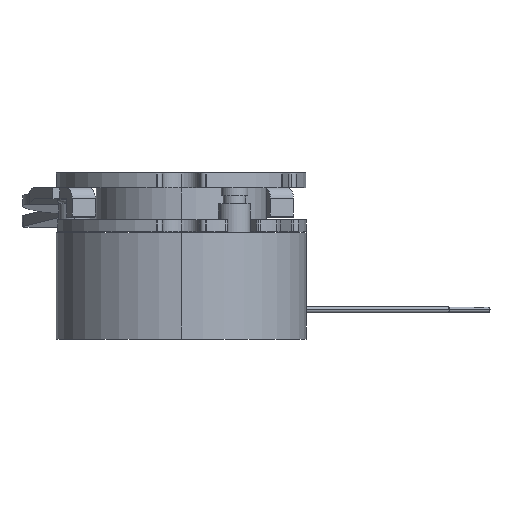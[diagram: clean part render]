
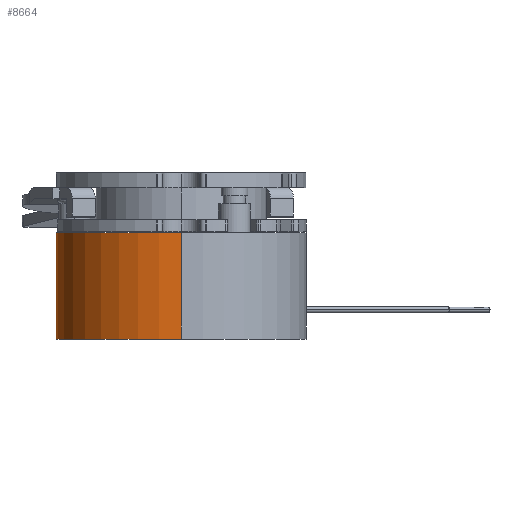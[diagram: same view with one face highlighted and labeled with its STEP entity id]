
A CAD part, left-side view. The second image highlights one B-rep face of the part: STEP entity #8664.
In plain terms, the highlighted cylindrical face has radius 23.5 mm (diameter 47 mm), a partial arc.
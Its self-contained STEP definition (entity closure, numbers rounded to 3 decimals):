
#2228 = LINE ( 'NONE', #4532, #2230 ) ;
#2230 = VECTOR ( 'NONE', #4533, 1000. ) ;
#3264 = EDGE_CURVE ( 'NONE', #13208, #8271, #7143, .T. ) ;
#3279 = EDGE_CURVE ( 'NONE', #8271, #3969, #7166, .T. ) ;
#3280 = EDGE_CURVE ( 'NONE', #3998, #3969, #7160, .T. ) ;
#3289 = EDGE_LOOP ( 'NONE', ( #7038, #7056, #7059, #7048 ) ) ;
#3969 = VERTEX_POINT ( 'NONE', #14203 ) ;
#3998 = VERTEX_POINT ( 'NONE', #14232 ) ;
#4119 = AXIS2_PLACEMENT_3D ( 'NONE', #14101, #14102, #14103 ) ;
#4125 = AXIS2_PLACEMENT_3D ( 'NONE', #14176, #14177, #14178 ) ;
#4532 = CARTESIAN_POINT ( 'NONE',  ( 23.5, 0., 20. ) ) ;
#4533 = DIRECTION ( 'NONE',  ( 0., 0., -1. ) ) ;
#4884 = CARTESIAN_POINT ( 'NONE',  ( 23.5, 0., 20. ) ) ;
#7038 = ORIENTED_EDGE ( 'NONE', *, *, #3264, .F. ) ;
#7048 = ORIENTED_EDGE ( 'NONE', *, *, #3279, .F. ) ;
#7056 = ORIENTED_EDGE ( 'NONE', *, *, #11798, .T. ) ;
#7059 = ORIENTED_EDGE ( 'NONE', *, *, #3280, .T. ) ;
#7143 = CIRCLE ( 'NONE', #4119, 23.5 ) ;
#7160 = CIRCLE ( 'NONE', #4125, 23.5 ) ;
#7166 = LINE ( 'NONE', #14158, #7168 ) ;
#7168 = VECTOR ( 'NONE', #14159, 1000. ) ;
#8271 = VERTEX_POINT ( 'NONE', #12454 ) ;
#8421 = FACE_OUTER_BOUND ( 'NONE', #3289, .T. ) ;
#8429 = CYLINDRICAL_SURFACE ( 'NONE', #15152, 23.5 ) ;
#8664 = ADVANCED_FACE ( 'NONE', ( #8421 ), #8429, .T. ) ;
#11798 = EDGE_CURVE ( 'NONE', #13208, #3998, #2228, .T. ) ;
#12454 = CARTESIAN_POINT ( 'NONE',  ( -23.5, 0., 20. ) ) ;
#12763 = CARTESIAN_POINT ( 'NONE',  ( 0., 0., 20. ) ) ;
#12764 = DIRECTION ( 'NONE',  ( 0., 0., -1. ) ) ;
#12772 = DIRECTION ( 'NONE',  ( -1., 0., 0. ) ) ;
#13208 = VERTEX_POINT ( 'NONE', #4884 ) ;
#14101 = CARTESIAN_POINT ( 'NONE',  ( 0., 0., 20. ) ) ;
#14102 = DIRECTION ( 'NONE',  ( 0., 0., 1. ) ) ;
#14103 = DIRECTION ( 'NONE',  ( 1., 0., 0. ) ) ;
#14158 = CARTESIAN_POINT ( 'NONE',  ( -23.5, 0., 20. ) ) ;
#14159 = DIRECTION ( 'NONE',  ( 0., 0., -1. ) ) ;
#14176 = CARTESIAN_POINT ( 'NONE',  ( 0., 0., 0. ) ) ;
#14177 = DIRECTION ( 'NONE',  ( 0., 0., 1. ) ) ;
#14178 = DIRECTION ( 'NONE',  ( 1., 0., 0. ) ) ;
#14203 = CARTESIAN_POINT ( 'NONE',  ( -23.5, 0., 0. ) ) ;
#14232 = CARTESIAN_POINT ( 'NONE',  ( 23.5, 0., 0. ) ) ;
#15152 = AXIS2_PLACEMENT_3D ( 'NONE', #12763, #12764, #12772 ) ;
